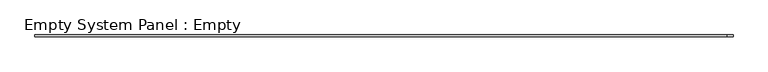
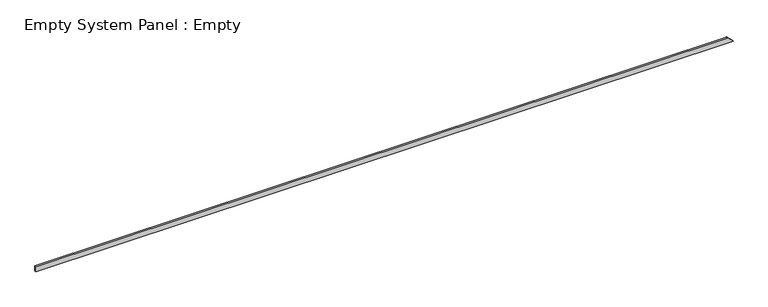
"""IFC4 building model written with IfcOpenShell, lengths in millimetres: plate geometry, Empty System Panel : Empty."""

from ifc_helpers import new_model, si_unit, frame, origin, place, context, project, spatial, polyline, outline, extrude, source, transform, mapped, element, save


def empty_system_panel_empty_44032bfa(model_context):
    return source(origin(), model_context, "Body", "SweptSolid", [
        extrude(outline(polyline([(0.0, -19567.3272084), (0.0, 19567.3272084), (330.0, 19240.978212), (310.0, 19240.978212), (310.0, -19567.3272084), (0.0, -19567.3272084)])), frame((0.0, -50.0, 0.0), z_axis=(0.0, 1.0, 0.0), x_axis=(0.0, 0.0, 1.0)), (0.0, 0.0, 1.0), 100.0),
    ])


if __name__ == "__main__":
    model = new_model("IFC4")
    model_context = context("Model", 3, world=origin())
    ifc_project = project(units=[si_unit("LENGTHUNIT", "METRE", prefix="MILLI")], contexts=[model_context])
    site = spatial("IfcSite", under=ifc_project)
    building = spatial("IfcBuilding", under=site)
    placement = place(None, origin())
    empty_system_panel_empty_shape = empty_system_panel_empty_44032bfa(model_context)
    element("IfcPlate", 1, ObjectType="Empty System Panel : Empty", at=placement, inside=building, context=model_context, shape_type="MappedRepresentation", body=[
        mapped(empty_system_panel_empty_shape, transform((0.0, 0.0, 0.0), x_axis=(1.0, 0.0, 0.0), y_axis=(0.0, 1.0, 0.0), z_axis=(0.0, 0.0, 1.0))),
    ])
    save(model, "model.ifc")
